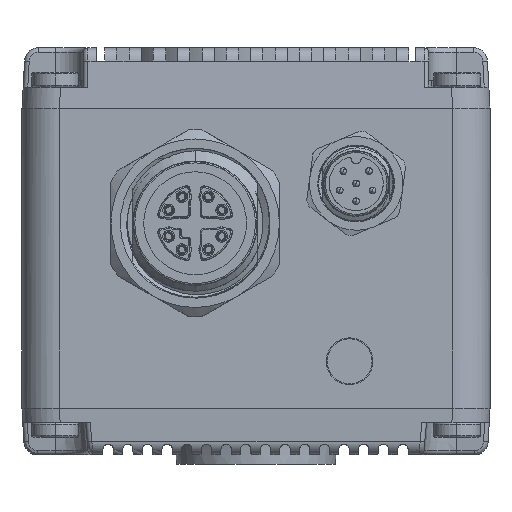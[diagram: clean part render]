
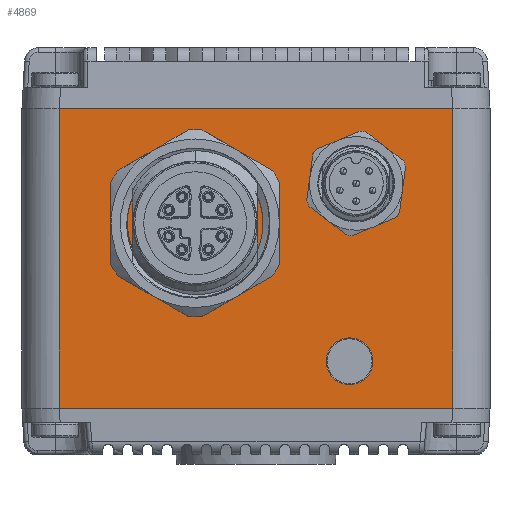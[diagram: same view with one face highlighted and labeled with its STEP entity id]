
A CAD part, left-side view. The second image highlights one B-rep face of the part: STEP entity #4869.
In plain terms, the highlighted planar face has unit normal (-1, 0, 0).
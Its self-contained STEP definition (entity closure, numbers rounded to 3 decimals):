
#4869=ADVANCED_FACE('',(#10855,#10856),#5961,.T.);
#5961=PLANE('',#32352);
#7170=LINE('',#74797,#9298);
#7172=LINE('',#74805,#9300);
#7191=LINE('',#74900,#9319);
#7192=LINE('',#74901,#9320);
#9298=VECTOR('',#37449,1.);
#9300=VECTOR('',#37457,1.);
#9319=VECTOR('',#37524,1.);
#9320=VECTOR('',#37525,1.);
#10855=FACE_BOUND('',#11879,.T.);
#10856=FACE_BOUND('',#11880,.T.);
#11879=EDGE_LOOP('',(#17439));
#11880=EDGE_LOOP('',(#17440,#17441,#17442,#17443));
#17439=ORIENTED_EDGE('',*,*,#27329,.F.);
#17440=ORIENTED_EDGE('',*,*,#27330,.F.);
#17441=ORIENTED_EDGE('',*,*,#27290,.T.);
#17442=ORIENTED_EDGE('',*,*,#27331,.T.);
#17443=ORIENTED_EDGE('',*,*,#27286,.F.);
#23484=VERTEX_POINT('',#74796);
#23485=VERTEX_POINT('',#74798);
#23488=VERTEX_POINT('',#74806);
#23489=VERTEX_POINT('',#74807);
#23521=VERTEX_POINT('',#74899);
#27286=EDGE_CURVE('',#23484,#23485,#7170,.T.);
#27290=EDGE_CURVE('',#23488,#23489,#7172,.T.);
#27329=EDGE_CURVE('',#23521,#23521,#30345,.T.);
#27330=EDGE_CURVE('',#23488,#23484,#7191,.T.);
#27331=EDGE_CURVE('',#23489,#23485,#7192,.T.);
#30345=CIRCLE('',#32351,2.5);
#32351=AXIS2_PLACEMENT_3D('',#74898,#37522,#37523);
#32352=AXIS2_PLACEMENT_3D('',#74902,#37526,#37527);
#37449=DIRECTION('',(0.,0.,-1.));
#37457=DIRECTION('',(0.,0.,-1.));
#37522=DIRECTION('',(-1.,0.,0.));
#37523=DIRECTION('',(0.,0.,1.));
#37524=DIRECTION('',(0.,-1.,0.));
#37525=DIRECTION('',(0.,-1.,0.));
#37526=DIRECTION('',(-1.,0.,0.));
#37527=DIRECTION('',(0.,-1.,0.));
#74796=CARTESIAN_POINT('',(-59.,-21.,11.));
#74797=CARTESIAN_POINT('',(-59.,-21.,11.));
#74798=CARTESIAN_POINT('',(-59.,-21.,-21.));
#74805=CARTESIAN_POINT('',(-59.,21.,11.));
#74806=CARTESIAN_POINT('',(-59.,21.003,11.));
#74807=CARTESIAN_POINT('',(-59.,21.,-21.));
#74898=CARTESIAN_POINT('',(-59.,-10.,-16.));
#74899=CARTESIAN_POINT('',(-59.,-10.,-13.5));
#74900=CARTESIAN_POINT('',(-59.,21.,11.));
#74901=CARTESIAN_POINT('',(-59.,21.,-21.));
#74902=CARTESIAN_POINT('',(-59.,25.,-26.));
